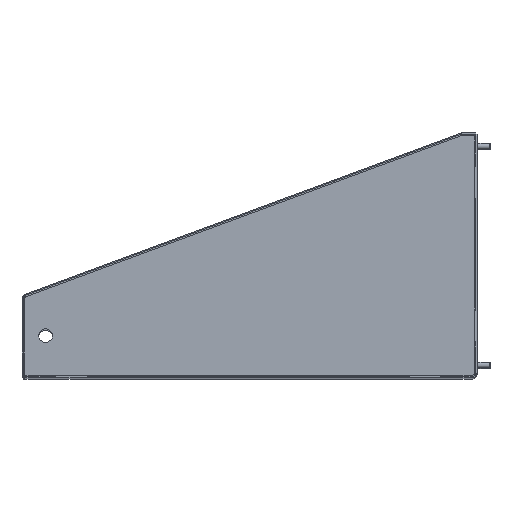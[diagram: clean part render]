
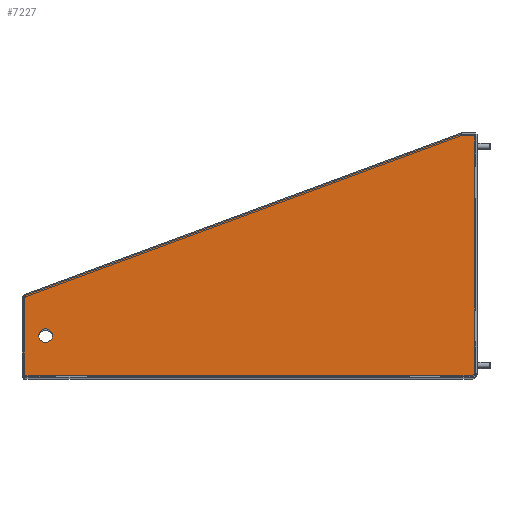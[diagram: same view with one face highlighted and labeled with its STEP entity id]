
A CAD part, top view. The second image highlights one B-rep face of the part: STEP entity #7227.
In plain terms, the highlighted planar face has unit normal (0, 0, 1).
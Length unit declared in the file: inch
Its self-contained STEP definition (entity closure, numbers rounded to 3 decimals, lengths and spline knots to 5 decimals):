
#6700=DIRECTION('',(0.,1.,0.));
#6701=VECTOR('',#6700,0.039);
#6702=CARTESIAN_POINT('',(-13.437,0.039,0.));
#6703=LINE('',#6702,#6701);
#6704=DIRECTION('',(1.,0.,0.));
#6705=VECTOR('',#6704,0.946);
#6706=CARTESIAN_POINT('',(-14.383,0.039,0.));
#6707=LINE('',#6706,#6705);
#6708=CARTESIAN_POINT('',(-14.383,0.117,0.));
#6709=DIRECTION('',(0.,0.,1.));
#6710=DIRECTION('',(-1.,0.,0.));
#6711=AXIS2_PLACEMENT_3D('',#6708,#6709,#6710);
#6713=DIRECTION('',(0.,-1.,0.));
#6714=VECTOR('',#6713,2.39726);
#6715=CARTESIAN_POINT('',(-14.461,2.51426,0.));
#6716=LINE('',#6715,#6714);
#6717=CARTESIAN_POINT('',(-14.341,2.51426,0.));
#6718=DIRECTION('',(0.,0.,1.));
#6719=DIRECTION('',(-0.347,0.938,0.));
#6720=AXIS2_PLACEMENT_3D('',#6717,#6718,#6719);
#6722=DIRECTION('',(-0.938,-0.347,0.));
#6723=VECTOR('',#6722,14.78665);
#6724=CARTESIAN_POINT('',(-0.51316,7.75356,0.));
#6725=LINE('',#6724,#6723);
#6726=CARTESIAN_POINT('',(-0.47155,7.641,0.));
#6727=DIRECTION('',(0.,0.,1.));
#6728=DIRECTION('',(0.,1.,0.));
#6729=AXIS2_PLACEMENT_3D('',#6726,#6727,#6728);
#6731=DIRECTION('',(-1.,0.,0.));
#6732=VECTOR('',#6731,0.35455);
#6733=CARTESIAN_POINT('',(-0.117,7.761,0.));
#6734=LINE('',#6733,#6732);
#6735=CARTESIAN_POINT('',(-0.117,7.683,0.));
#6736=DIRECTION('',(0.,0.,1.));
#6737=DIRECTION('',(1.,0.,0.));
#6738=AXIS2_PLACEMENT_3D('',#6735,#6736,#6737);
#6740=DIRECTION('',(0.,1.,0.));
#6741=VECTOR('',#6740,0.946);
#6742=CARTESIAN_POINT('',(-0.039,6.737,0.));
#6743=LINE('',#6742,#6741);
#6744=DIRECTION('',(-1.,0.,0.));
#6745=VECTOR('',#6744,0.039);
#6746=CARTESIAN_POINT('',(-0.039,6.737,0.));
#6747=LINE('',#6746,#6745);
#6748=DIRECTION('',(0.,1.,0.));
#6749=VECTOR('',#6748,1.03);
#6750=CARTESIAN_POINT('',(-0.078,5.707,0.));
#6751=LINE('',#6750,#6749);
#6752=DIRECTION('',(-1.,0.,0.));
#6753=VECTOR('',#6752,0.039);
#6754=CARTESIAN_POINT('',(-0.039,5.707,0.));
#6755=LINE('',#6754,#6753);
#6756=DIRECTION('',(0.,1.,0.));
#6757=VECTOR('',#6756,3.534);
#6758=CARTESIAN_POINT('',(-0.039,2.173,0.));
#6759=LINE('',#6758,#6757);
#6760=DIRECTION('',(-1.,0.,0.));
#6761=VECTOR('',#6760,0.039);
#6762=CARTESIAN_POINT('',(-0.039,2.173,0.));
#6763=LINE('',#6762,#6761);
#6764=DIRECTION('',(0.,1.,0.));
#6765=VECTOR('',#6764,1.03);
#6766=CARTESIAN_POINT('',(-0.078,1.143,0.));
#6767=LINE('',#6766,#6765);
#6768=DIRECTION('',(-1.,0.,0.));
#6769=VECTOR('',#6768,0.039);
#6770=CARTESIAN_POINT('',(-0.039,1.143,0.));
#6771=LINE('',#6770,#6769);
#6772=DIRECTION('',(0.,1.,0.));
#6773=VECTOR('',#6772,0.984);
#6774=CARTESIAN_POINT('',(-0.039,0.159,0.));
#6775=LINE('',#6774,#6773);
#6776=CARTESIAN_POINT('',(-0.159,0.159,0.));
#6777=DIRECTION('',(0.,0.,1.));
#6778=DIRECTION('',(0.,-1.,0.));
#6779=AXIS2_PLACEMENT_3D('',#6776,#6777,#6778);
#6781=DIRECTION('',(1.,0.,0.));
#6782=VECTOR('',#6781,0.984);
#6783=CARTESIAN_POINT('',(-1.143,0.039,0.));
#6784=LINE('',#6783,#6782);
#6785=DIRECTION('',(0.,1.,0.));
#6786=VECTOR('',#6785,0.039);
#6787=CARTESIAN_POINT('',(-1.143,0.039,0.));
#6788=LINE('',#6787,#6786);
#6789=DIRECTION('',(1.,0.,0.));
#6790=VECTOR('',#6789,1.03);
#6791=CARTESIAN_POINT('',(-2.173,0.078,0.));
#6792=LINE('',#6791,#6790);
#6793=DIRECTION('',(0.,1.,0.));
#6794=VECTOR('',#6793,0.039);
#6795=CARTESIAN_POINT('',(-2.173,0.039,0.));
#6796=LINE('',#6795,#6794);
#6797=DIRECTION('',(1.,0.,0.));
#6798=VECTOR('',#6797,10.234);
#6799=CARTESIAN_POINT('',(-12.407,0.039,0.));
#6800=LINE('',#6799,#6798);
#6801=DIRECTION('',(0.,1.,0.));
#6802=VECTOR('',#6801,0.039);
#6803=CARTESIAN_POINT('',(-12.407,0.039,0.));
#6804=LINE('',#6803,#6802);
#6805=DIRECTION('',(1.,0.,0.));
#6806=VECTOR('',#6805,1.03);
#6807=CARTESIAN_POINT('',(-13.437,0.078,0.));
#6808=LINE('',#6807,#6806);
#6809=CARTESIAN_POINT('',(-13.75,1.34,0.));
#6810=DIRECTION('',(0.,0.,-1.));
#6811=DIRECTION('',(1.,0.,0.));
#6812=AXIS2_PLACEMENT_3D('',#6809,#6810,#6811);
#6814=CARTESIAN_POINT('',(-13.75,1.34,0.));
#6815=DIRECTION('',(0.,0.,-1.));
#6816=DIRECTION('',(-1.,0.,0.));
#6817=AXIS2_PLACEMENT_3D('',#6814,#6815,#6816);
#7050=CARTESIAN_POINT('',(-0.039,7.683,0.));
#7051=CARTESIAN_POINT('',(-0.117,7.761,0.));
#7052=VERTEX_POINT('',#7050);
#7053=VERTEX_POINT('',#7051);
#7058=CARTESIAN_POINT('',(-0.47155,7.761,0.));
#7059=CARTESIAN_POINT('',(-0.51316,7.75356,0.));
#7060=VERTEX_POINT('',#7058);
#7061=VERTEX_POINT('',#7059);
#7066=CARTESIAN_POINT('',(-0.159,0.039,0.));
#7067=CARTESIAN_POINT('',(-0.039,0.159,0.));
#7068=VERTEX_POINT('',#7066);
#7069=VERTEX_POINT('',#7067);
#7074=CARTESIAN_POINT('',(-14.461,0.117,0.));
#7075=CARTESIAN_POINT('',(-14.383,0.039,0.));
#7076=VERTEX_POINT('',#7074);
#7077=VERTEX_POINT('',#7075);
#7082=CARTESIAN_POINT('',(-14.38261,2.62681,0.));
#7083=CARTESIAN_POINT('',(-14.461,2.51426,0.));
#7084=VERTEX_POINT('',#7082);
#7085=VERTEX_POINT('',#7083);
#7090=CARTESIAN_POINT('',(-13.437,0.039,0.));
#7091=CARTESIAN_POINT('',(-13.437,0.078,0.));
#7092=VERTEX_POINT('',#7090);
#7093=VERTEX_POINT('',#7091);
#7094=CARTESIAN_POINT('',(-12.407,0.078,0.));
#7095=VERTEX_POINT('',#7094);
#7096=CARTESIAN_POINT('',(-12.407,0.039,0.));
#7097=VERTEX_POINT('',#7096);
#7098=CARTESIAN_POINT('',(-2.173,0.039,0.));
#7099=CARTESIAN_POINT('',(-2.173,0.078,0.));
#7100=VERTEX_POINT('',#7098);
#7101=VERTEX_POINT('',#7099);
#7102=CARTESIAN_POINT('',(-1.143,0.078,0.));
#7103=VERTEX_POINT('',#7102);
#7104=CARTESIAN_POINT('',(-1.143,0.039,0.));
#7105=VERTEX_POINT('',#7104);
#7106=CARTESIAN_POINT('',(-0.039,1.143,0.));
#7107=CARTESIAN_POINT('',(-0.078,1.143,0.));
#7108=VERTEX_POINT('',#7106);
#7109=VERTEX_POINT('',#7107);
#7110=CARTESIAN_POINT('',(-0.078,2.173,0.));
#7111=VERTEX_POINT('',#7110);
#7112=CARTESIAN_POINT('',(-0.039,2.173,0.));
#7113=VERTEX_POINT('',#7112);
#7114=CARTESIAN_POINT('',(-0.039,5.707,0.));
#7115=CARTESIAN_POINT('',(-0.078,5.707,0.));
#7116=VERTEX_POINT('',#7114);
#7117=VERTEX_POINT('',#7115);
#7118=CARTESIAN_POINT('',(-0.078,6.737,0.));
#7119=VERTEX_POINT('',#7118);
#7120=CARTESIAN_POINT('',(-0.039,6.737,0.));
#7121=VERTEX_POINT('',#7120);
#7154=CARTESIAN_POINT('',(-13.53,1.34,0.));
#7155=CARTESIAN_POINT('',(-13.97,1.34,0.));
#7156=VERTEX_POINT('',#7154);
#7157=VERTEX_POINT('',#7155);
#7162=CARTESIAN_POINT('',(0.,0.,0.));
#7163=DIRECTION('',(0.,0.,1.));
#7164=DIRECTION('',(1.,0.,0.));
#7165=AXIS2_PLACEMENT_3D('',#7162,#7163,#7164);
#7166=PLANE('',#7165);
#7168=ORIENTED_EDGE('',*,*,#7167,.F.);
#7170=ORIENTED_EDGE('',*,*,#7169,.F.);
#7172=ORIENTED_EDGE('',*,*,#7171,.F.);
#7174=ORIENTED_EDGE('',*,*,#7173,.F.);
#7176=ORIENTED_EDGE('',*,*,#7175,.F.);
#7178=ORIENTED_EDGE('',*,*,#7177,.F.);
#7180=ORIENTED_EDGE('',*,*,#7179,.F.);
#7182=ORIENTED_EDGE('',*,*,#7181,.F.);
#7184=ORIENTED_EDGE('',*,*,#7183,.F.);
#7186=ORIENTED_EDGE('',*,*,#7185,.F.);
#7188=ORIENTED_EDGE('',*,*,#7187,.T.);
#7190=ORIENTED_EDGE('',*,*,#7189,.F.);
#7192=ORIENTED_EDGE('',*,*,#7191,.F.);
#7194=ORIENTED_EDGE('',*,*,#7193,.F.);
#7196=ORIENTED_EDGE('',*,*,#7195,.T.);
#7198=ORIENTED_EDGE('',*,*,#7197,.F.);
#7200=ORIENTED_EDGE('',*,*,#7199,.F.);
#7202=ORIENTED_EDGE('',*,*,#7201,.F.);
#7204=ORIENTED_EDGE('',*,*,#7203,.F.);
#7206=ORIENTED_EDGE('',*,*,#7205,.F.);
#7208=ORIENTED_EDGE('',*,*,#7207,.T.);
#7210=ORIENTED_EDGE('',*,*,#7209,.F.);
#7212=ORIENTED_EDGE('',*,*,#7211,.F.);
#7214=ORIENTED_EDGE('',*,*,#7213,.F.);
#7216=ORIENTED_EDGE('',*,*,#7215,.T.);
#7218=ORIENTED_EDGE('',*,*,#7217,.F.);
#7219=EDGE_LOOP('',(#7168,#7170,#7172,#7174,#7176,#7178,#7180,#7182,#7184,#7186,
#7188,#7190,#7192,#7194,#7196,#7198,#7200,#7202,#7204,#7206,#7208,#7210,#7212,
#7214,#7216,#7218));
#7220=FACE_OUTER_BOUND('',#7219,.F.);
#7222=ORIENTED_EDGE('',*,*,#7221,.F.);
#7224=ORIENTED_EDGE('',*,*,#7223,.F.);
#7225=EDGE_LOOP('',(#7222,#7224));
#7226=FACE_BOUND('',#7225,.F.);
#6712=CIRCLE('',#6711,0.078);
#6721=CIRCLE('',#6720,0.12);
#6730=CIRCLE('',#6729,0.12);
#6739=CIRCLE('',#6738,0.078);
#6780=CIRCLE('',#6779,0.12);
#6813=CIRCLE('',#6812,0.22);
#6818=CIRCLE('',#6817,0.22);
#7167=EDGE_CURVE('',#7092,#7093,#6703,.T.);
#7169=EDGE_CURVE('',#7077,#7092,#6707,.T.);
#7171=EDGE_CURVE('',#7076,#7077,#6712,.T.);
#7173=EDGE_CURVE('',#7085,#7076,#6716,.T.);
#7175=EDGE_CURVE('',#7084,#7085,#6721,.T.);
#7177=EDGE_CURVE('',#7061,#7084,#6725,.T.);
#7179=EDGE_CURVE('',#7060,#7061,#6730,.T.);
#7181=EDGE_CURVE('',#7053,#7060,#6734,.T.);
#7183=EDGE_CURVE('',#7052,#7053,#6739,.T.);
#7185=EDGE_CURVE('',#7121,#7052,#6743,.T.);
#7187=EDGE_CURVE('',#7121,#7119,#6747,.T.);
#7189=EDGE_CURVE('',#7117,#7119,#6751,.T.);
#7191=EDGE_CURVE('',#7116,#7117,#6755,.T.);
#7193=EDGE_CURVE('',#7113,#7116,#6759,.T.);
#7195=EDGE_CURVE('',#7113,#7111,#6763,.T.);
#7197=EDGE_CURVE('',#7109,#7111,#6767,.T.);
#7199=EDGE_CURVE('',#7108,#7109,#6771,.T.);
#7201=EDGE_CURVE('',#7069,#7108,#6775,.T.);
#7203=EDGE_CURVE('',#7068,#7069,#6780,.T.);
#7205=EDGE_CURVE('',#7105,#7068,#6784,.T.);
#7207=EDGE_CURVE('',#7105,#7103,#6788,.T.);
#7209=EDGE_CURVE('',#7101,#7103,#6792,.T.);
#7211=EDGE_CURVE('',#7100,#7101,#6796,.T.);
#7213=EDGE_CURVE('',#7097,#7100,#6800,.T.);
#7215=EDGE_CURVE('',#7097,#7095,#6804,.T.);
#7217=EDGE_CURVE('',#7093,#7095,#6808,.T.);
#7221=EDGE_CURVE('',#7156,#7157,#6813,.T.);
#7223=EDGE_CURVE('',#7157,#7156,#6818,.T.);
#7227=ADVANCED_FACE('',(#7220,#7226),#7166,.T.);
